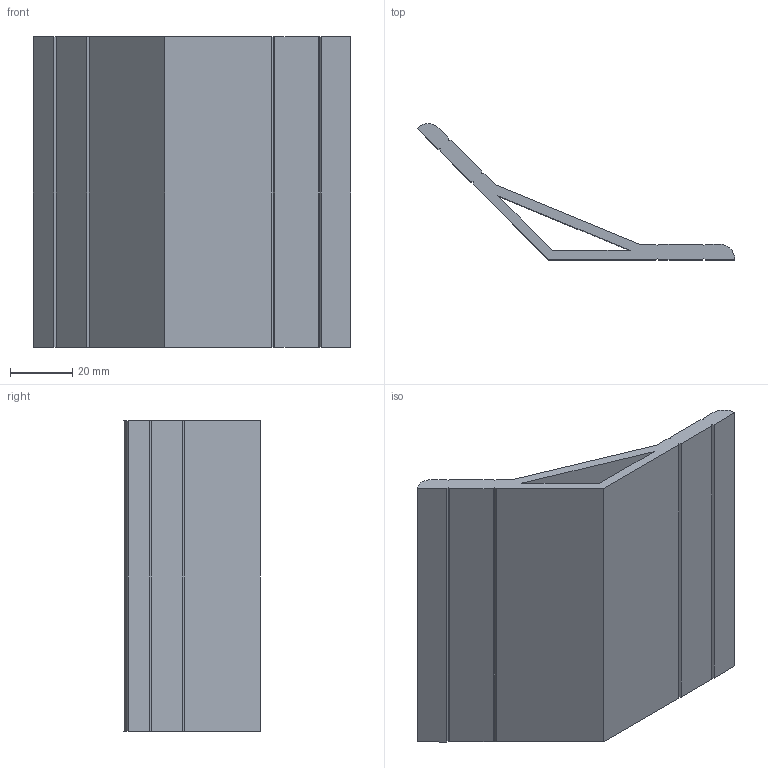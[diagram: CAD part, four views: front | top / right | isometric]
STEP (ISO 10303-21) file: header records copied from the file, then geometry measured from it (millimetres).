
FILE_DESCRIPTION (( 'STEP AP203' ), '1' );
FILE_NAME ('WA60135.STEP', '2024-02-19T12:00:11', ( '' ), ( '' ), 'SwSTEP 2.0', 'SolidWorks 2022', '' );
FILE_SCHEMA (( 'CONFIG_CONTROL_DESIGN' ));
Length unit declared in the file: millimetre
Products named in the file (1): WA60135
Bounding box: 102.43 x 43.87 x 100 mm (x, y, z)
Volume: 61718.1 mm3; surface area: 34927.9 mm2
Topology: 1 solids, 1 shells, 36 faces, 102 edges, 68 vertices
Faces by surface type: plane 34, cylinder 2
Entity records: 1231 total; most frequent: CARTESIAN_POINT 207, ORIENTED_EDGE 204, DIRECTION 180, EDGE_CURVE 102, LINE 98, VECTOR 98, VERTEX_POINT 68, AXIS2_PLACEMENT_3D 41
